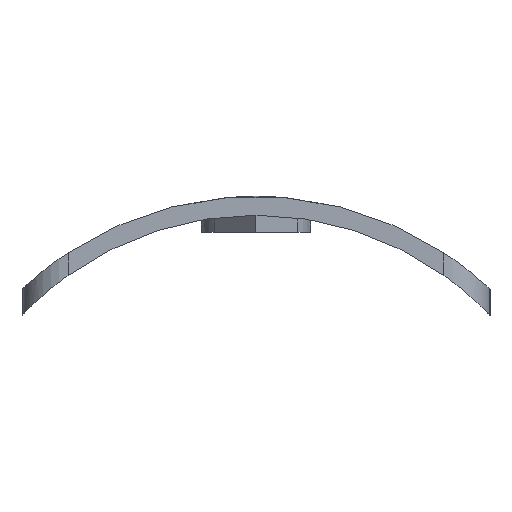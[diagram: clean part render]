
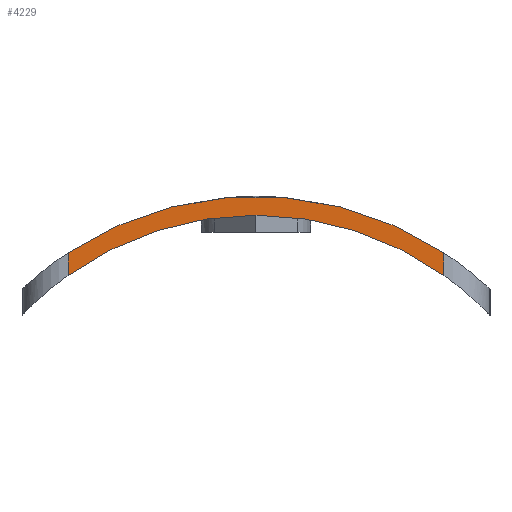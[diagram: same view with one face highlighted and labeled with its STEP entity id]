
A CAD part, left-side view. The second image highlights one B-rep face of the part: STEP entity #4229.
In plain terms, the highlighted planar face has unit normal (-1, 0, 0).
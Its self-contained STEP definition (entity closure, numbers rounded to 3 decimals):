
#22 = VERTEX_POINT('',#23);
#23 = CARTESIAN_POINT('',(96.3,11.,16.703));
#61 = CYLINDRICAL_SURFACE('',#62,20.);
#62 = AXIS2_PLACEMENT_3D('',#63,#64,#65);
#63 = CARTESIAN_POINT('',(95.,0.,0.));
#64 = DIRECTION('',(1.,0.,0.));
#65 = DIRECTION('',(-0.,0.,1.));
#102 = CYLINDRICAL_SURFACE('',#103,2.7);
#103 = AXIS2_PLACEMENT_3D('',#104,#105,#106);
#104 = CARTESIAN_POINT('',(99.,11.,5.));
#105 = DIRECTION('',(0.,0.,1.));
#106 = DIRECTION('',(-1.,-0.,0.));
#143 = EDGE_CURVE('',#22,#144,#146,.T.);
#144 = VERTEX_POINT('',#145);
#145 = CARTESIAN_POINT('',(96.3,-11.,16.703));
#146 = SURFACE_CURVE('',#147,(#152,#159),.PCURVE_S1.);
#147 = CIRCLE('',#148,20.);
#148 = AXIS2_PLACEMENT_3D('',#149,#150,#151);
#149 = CARTESIAN_POINT('',(96.3,0.,0.));
#150 = DIRECTION('',(1.,0.,0.));
#151 = DIRECTION('',(-0.,0.55,0.835));
#152 = PCURVE('',#61,#153);
#153 = DEFINITIONAL_REPRESENTATION('',(#154),#158);
#154 = LINE('',#155,#156);
#155 = CARTESIAN_POINT('',(5.701,1.3));
#156 = VECTOR('',#157,1.);
#157 = DIRECTION('',(1.,0.));
#158 = ( GEOMETRIC_REPRESENTATION_CONTEXT(2) 
PARAMETRIC_REPRESENTATION_CONTEXT() REPRESENTATION_CONTEXT('2D SPACE',''
  ) );
#159 = PCURVE('',#160,#165);
#160 = PLANE('',#161);
#161 = AXIS2_PLACEMENT_3D('',#162,#163,#164);
#162 = CARTESIAN_POINT('',(96.3,-13.7,5.));
#163 = DIRECTION('',(1.,0.,0.));
#164 = DIRECTION('',(0.,0.,1.));
#165 = DEFINITIONAL_REPRESENTATION('',(#166),#170);
#166 = CIRCLE('',#167,20.);
#167 = AXIS2_PLACEMENT_2D('',#168,#169);
#168 = CARTESIAN_POINT('',(-5.,-13.7));
#169 = DIRECTION('',(0.835,-0.55));
#170 = ( GEOMETRIC_REPRESENTATION_CONTEXT(2) 
PARAMETRIC_REPRESENTATION_CONTEXT() REPRESENTATION_CONTEXT('2D SPACE',''
  ) );
#246 = CYLINDRICAL_SURFACE('',#247,2.7);
#247 = AXIS2_PLACEMENT_3D('',#248,#249,#250);
#248 = CARTESIAN_POINT('',(99.,-11.,5.));
#249 = DIRECTION('',(0.,0.,1.));
#250 = DIRECTION('',(-1.,-0.,0.));
#2384 = CYLINDRICAL_SURFACE('',#2385,18.9);
#2385 = AXIS2_PLACEMENT_3D('',#2386,#2387,#2388);
#2386 = CARTESIAN_POINT('',(94.,0.,0.));
#2387 = DIRECTION('',(1.,0.,0.));
#2388 = DIRECTION('',(-0.,0.,1.));
#2424 = VERTEX_POINT('',#2425);
#2425 = CARTESIAN_POINT('',(96.3,11.,15.369));
#2535 = EDGE_CURVE('',#2424,#2536,#2538,.T.);
#2536 = VERTEX_POINT('',#2537);
#2537 = CARTESIAN_POINT('',(96.3,-11.,15.369));
#2538 = SURFACE_CURVE('',#2539,(#2544,#2551),.PCURVE_S1.);
#2539 = CIRCLE('',#2540,18.9);
#2540 = AXIS2_PLACEMENT_3D('',#2541,#2542,#2543);
#2541 = CARTESIAN_POINT('',(96.3,0.,0.));
#2542 = DIRECTION('',(1.,0.,0.));
#2543 = DIRECTION('',(-0.,0.582,0.813));
#2544 = PCURVE('',#2384,#2545);
#2545 = DEFINITIONAL_REPRESENTATION('',(#2546),#2550);
#2546 = LINE('',#2547,#2548);
#2547 = CARTESIAN_POINT('',(5.662,2.3));
#2548 = VECTOR('',#2549,1.);
#2549 = DIRECTION('',(1.,0.));
#2550 = ( GEOMETRIC_REPRESENTATION_CONTEXT(2) 
PARAMETRIC_REPRESENTATION_CONTEXT() REPRESENTATION_CONTEXT('2D SPACE',''
  ) );
#2551 = PCURVE('',#160,#2552);
#2552 = DEFINITIONAL_REPRESENTATION('',(#2553),#2557);
#2553 = CIRCLE('',#2554,18.9);
#2554 = AXIS2_PLACEMENT_2D('',#2555,#2556);
#2555 = CARTESIAN_POINT('',(-5.,-13.7));
#2556 = DIRECTION('',(0.813,-0.582));
#2557 = ( GEOMETRIC_REPRESENTATION_CONTEXT(2) 
PARAMETRIC_REPRESENTATION_CONTEXT() REPRESENTATION_CONTEXT('2D SPACE',''
  ) );
#4206 = EDGE_CURVE('',#2536,#144,#4207,.T.);
#4207 = SURFACE_CURVE('',#4208,(#4212,#4219),.PCURVE_S1.);
#4208 = LINE('',#4209,#4210);
#4209 = CARTESIAN_POINT('',(96.3,-11.,5.));
#4210 = VECTOR('',#4211,1.);
#4211 = DIRECTION('',(0.,0.,1.));
#4212 = PCURVE('',#246,#4213);
#4213 = DEFINITIONAL_REPRESENTATION('',(#4214),#4218);
#4214 = LINE('',#4215,#4216);
#4215 = CARTESIAN_POINT('',(0.,0.));
#4216 = VECTOR('',#4217,1.);
#4217 = DIRECTION('',(0.,1.));
#4218 = ( GEOMETRIC_REPRESENTATION_CONTEXT(2) 
PARAMETRIC_REPRESENTATION_CONTEXT() REPRESENTATION_CONTEXT('2D SPACE',''
  ) );
#4219 = PCURVE('',#160,#4220);
#4220 = DEFINITIONAL_REPRESENTATION('',(#4221),#4225);
#4221 = LINE('',#4222,#4223);
#4222 = CARTESIAN_POINT('',(0.,-2.7));
#4223 = VECTOR('',#4224,1.);
#4224 = DIRECTION('',(1.,0.));
#4225 = ( GEOMETRIC_REPRESENTATION_CONTEXT(2) 
PARAMETRIC_REPRESENTATION_CONTEXT() REPRESENTATION_CONTEXT('2D SPACE',''
  ) );
#4229 = ADVANCED_FACE('',(#4230),#160,.F.);
#4230 = FACE_BOUND('',#4231,.F.);
#4231 = EDGE_LOOP('',(#4232,#4233,#4234,#4235));
#4232 = ORIENTED_EDGE('',*,*,#143,.T.);
#4233 = ORIENTED_EDGE('',*,*,#4206,.F.);
#4234 = ORIENTED_EDGE('',*,*,#2535,.F.);
#4235 = ORIENTED_EDGE('',*,*,#4236,.T.);
#4236 = EDGE_CURVE('',#2424,#22,#4237,.T.);
#4237 = SURFACE_CURVE('',#4238,(#4242,#4249),.PCURVE_S1.);
#4238 = LINE('',#4239,#4240);
#4239 = CARTESIAN_POINT('',(96.3,11.,5.));
#4240 = VECTOR('',#4241,1.);
#4241 = DIRECTION('',(0.,0.,1.));
#4242 = PCURVE('',#160,#4243);
#4243 = DEFINITIONAL_REPRESENTATION('',(#4244),#4248);
#4244 = LINE('',#4245,#4246);
#4245 = CARTESIAN_POINT('',(0.,-24.7));
#4246 = VECTOR('',#4247,1.);
#4247 = DIRECTION('',(1.,0.));
#4248 = ( GEOMETRIC_REPRESENTATION_CONTEXT(2) 
PARAMETRIC_REPRESENTATION_CONTEXT() REPRESENTATION_CONTEXT('2D SPACE',''
  ) );
#4249 = PCURVE('',#102,#4250);
#4250 = DEFINITIONAL_REPRESENTATION('',(#4251),#4255);
#4251 = LINE('',#4252,#4253);
#4252 = CARTESIAN_POINT('',(-0.,0.));
#4253 = VECTOR('',#4254,1.);
#4254 = DIRECTION('',(-0.,1.));
#4255 = ( GEOMETRIC_REPRESENTATION_CONTEXT(2) 
PARAMETRIC_REPRESENTATION_CONTEXT() REPRESENTATION_CONTEXT('2D SPACE',''
  ) );
